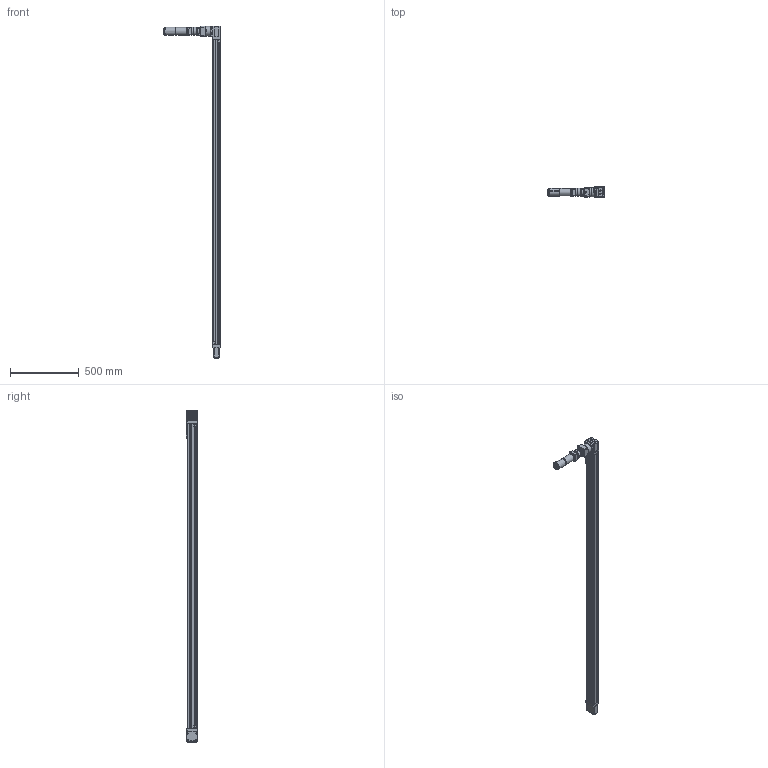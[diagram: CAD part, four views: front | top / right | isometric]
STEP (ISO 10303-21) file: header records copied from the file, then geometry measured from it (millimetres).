
FILE_DESCRIPTION (( 'STEP AP203' ), '1' );
FILE_NAME ('B3W10_BWS18_SM2100.000_B3W-486908-1.step', '2025-04-23T20:27:59', ( '' ), ( '' ), 'SwSTEP 2.0', 'SolidWorks 2024', '' );
FILE_SCHEMA (( 'CONFIG_CONTROL_DESIGN' ));
Length unit declared in the file: inch
Products named in the file (6): Base_B3W10_BWS18_SM2100.000_B3W-486908-1; B3W10_BWS18_SM2100.000_B3W-486908-1; tempJoin3_44109204_B3W10_BWS18_SM2100.000_B3W-486908-1; tempJoin4_45109055_B3W10_BWS18_SM2100.000_B3W-486908-1; 44109070_B3W10_BWS18_SM2100.000_B3W-486908-1; 36049450_B3W10_BWS18_SM2100.000_B3W-486908-1
Assembly tree (5 placements, depth 2):
  B3W10_BWS18_SM2100.000_B3W-486908-1
    tempJoin3_44109204_B3W10_BWS18_SM2100.000_B3W-486908-1
    tempJoin4_45109055_B3W10_BWS18_SM2100.000_B3W-486908-1
    36049450_B3W10_BWS18_SM2100.000_B3W-486908-1
    44109070_B3W10_BWS18_SM2100.000_B3W-486908-1
    Base_B3W10_BWS18_SM2100.000_B3W-486908-1
Bounding box: 413.11 x 84.39 x 2416.51 mm (x, y, z)
Volume: 9026951.6 mm3; surface area: 1240824.4 mm2
Topology: 9 solids, 37 shells, 2139 faces, 5138 edges, 3341 vertices
Faces by surface type: plane 1314, cylinder 530, cone 155, bspline 70, torus 42, sphere 28
Full cylindrical faces by diameter (mm): 0.7 x17, 1 x5, 1.2 x8, 2.013 x2, 3.1 x5, 3.3 x10, 3.4 x1, 3.454 x1, 3.734 x8, 3.969 x4, 4 x5, 4.191 x4, 4.2 x5, 4.201 x4, 4.3 x2, 4.318 x1, 4.5 x2, 5 x24, 5.001 x4, 5.2 x26, 5.5 x4, 5.588 x12, 5.6 x1, 5.69 x4, 6 x5, 6.02 x2, 6.35 x1, 6.858 x4, 7 x9, 7.4 x1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
Entity records: 66477 total; most frequent: CARTESIAN_POINT 18798, DIRECTION 9523, ORIENTED_EDGE 8980, EDGE_CURVE 4490, AXIS2_PLACEMENT_3D 3406, VERTEX_POINT 3177, EDGE_LOOP 2989, LINE 2711
